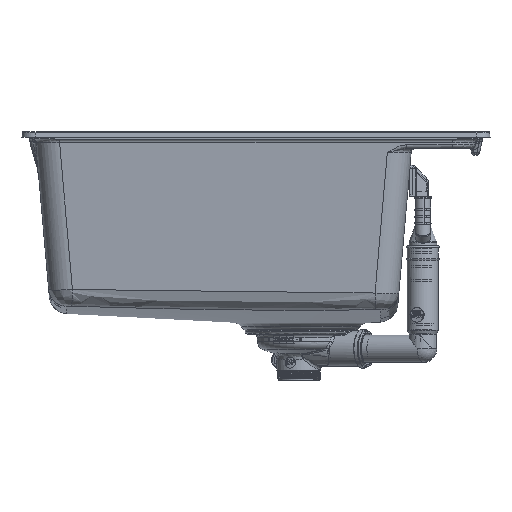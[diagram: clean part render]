
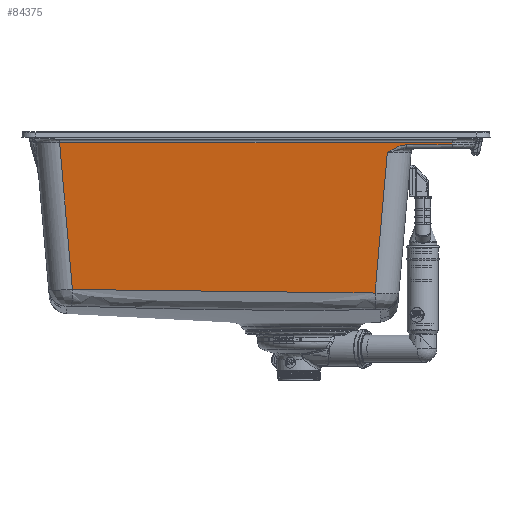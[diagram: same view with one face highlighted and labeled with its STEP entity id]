
A CAD part, front view. The second image highlights one B-rep face of the part: STEP entity #84375.
In plain terms, the highlighted planar face has unit normal (0, -0.996, -0.087).
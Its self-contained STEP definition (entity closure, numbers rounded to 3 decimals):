
#2318=B_SPLINE_CURVE_WITH_KNOTS('',3,(#120013,#120014,#120015,#120016,#120017,
#120018,#120019,#120020,#120021,#120022,#120023,#120024),.UNSPECIFIED.,
 .F.,.F.,(4,1,1,1,1,1,1,2,4),(0.,0.453,0.906,
1.358,1.585,1.811,2.038,2.264,
2.266),.UNSPECIFIED.);
#2320=B_SPLINE_CURVE_WITH_KNOTS('',3,(#120039,#120040,#120041,#120042,#120043),
 .UNSPECIFIED.,.F.,.F.,(4,1,4),(0.,14.136,32.985),
 .UNSPECIFIED.);
#5267=PLANE('',#89990);
#8041=FACE_OUTER_BOUND('',#12977,.T.);
#12977=EDGE_LOOP('',(#58316,#58317,#58318,#58319,#58320,#58321,#58322));
#18113=LINE('',#117624,#25758);
#18157=LINE('',#119020,#25802);
#18166=LINE('',#119169,#25811);
#18202=LINE('',#119951,#25847);
#18203=LINE('',#120044,#25848);
#25758=VECTOR('',#96568,10.);
#25802=VECTOR('',#96940,10.);
#25811=VECTOR('',#96983,10.);
#25847=VECTOR('',#97155,10.);
#25848=VECTOR('',#97158,10.);
#35954=VERTEX_POINT('',#117609);
#35957=VERTEX_POINT('',#117622);
#36069=VERTEX_POINT('',#119016);
#36077=VERTEX_POINT('',#119161);
#36136=VERTEX_POINT('',#119949);
#36137=VERTEX_POINT('',#120012);
#36138=VERTEX_POINT('',#120038);
#44469=EDGE_CURVE('',#35957,#35954,#18113,.T.);
#44668=EDGE_CURVE('',#36069,#35954,#18157,.T.);
#44688=EDGE_CURVE('',#35957,#36077,#18166,.T.);
#44782=EDGE_CURVE('',#36069,#36136,#18202,.T.);
#44783=EDGE_CURVE('',#36136,#36137,#2318,.T.);
#44785=EDGE_CURVE('',#36138,#36077,#2320,.T.);
#44786=EDGE_CURVE('',#36138,#36137,#18203,.T.);
#58316=ORIENTED_EDGE('',*,*,#44783,.F.);
#58317=ORIENTED_EDGE('',*,*,#44782,.F.);
#58318=ORIENTED_EDGE('',*,*,#44668,.T.);
#58319=ORIENTED_EDGE('',*,*,#44469,.F.);
#58320=ORIENTED_EDGE('',*,*,#44688,.T.);
#58321=ORIENTED_EDGE('',*,*,#44785,.F.);
#58322=ORIENTED_EDGE('',*,*,#44786,.T.);
#84375=ADVANCED_FACE('',(#8041),#5267,.T.);
#89990=AXIS2_PLACEMENT_3D('',#120037,#97156,#97157);
#96568=DIRECTION('',(1.,0.,0.));
#96940=DIRECTION('',(0.087,-0.087,0.992));
#96983=DIRECTION('',(0.087,0.087,-0.992));
#97155=DIRECTION('',(-1.,0.001,-0.009));
#97156=DIRECTION('center_axis',(0.,-0.996,
-0.087));
#97157=DIRECTION('ref_axis',(-1.,0.,0.));
#97158=DIRECTION('',(0.087,-0.087,0.992));
#117609=CARTESIAN_POINT('',(214.063,-364.964,-12.108));
#117622=CARTESIAN_POINT('',(-214.063,-364.964,-12.108));
#117624=CARTESIAN_POINT('',(82.5,-364.964,-12.108));
#119016=CARTESIAN_POINT('',(213.89,-364.791,-14.077));
#119020=CARTESIAN_POINT('',(213.605,-364.507,-17.333));
#119161=CARTESIAN_POINT('',(-200.065,-350.967,-172.095));
#119169=CARTESIAN_POINT('',(-213.719,-364.62,-16.04));
#119949=CARTESIAN_POINT('',(163.896,-364.753,-14.513));
#119951=CARTESIAN_POINT('',(199.944,-364.781,-14.198));
#120012=CARTESIAN_POINT('',(143.117,-364.019,-22.91));
#120013=CARTESIAN_POINT('Ctrl Pts',(163.896,-364.753,
-14.513));
#120014=CARTESIAN_POINT('Ctrl Pts',(162.386,-364.752,-14.526));
#120015=CARTESIAN_POINT('Ctrl Pts',(159.354,-364.718,-14.911));
#120016=CARTESIAN_POINT('Ctrl Pts',(155.005,-364.599,
-16.276));
#120017=CARTESIAN_POINT('Ctrl Pts',(151.586,-364.461,
-17.855));
#120018=CARTESIAN_POINT('Ctrl Pts',(148.924,-364.334,
-19.304));
#120019=CARTESIAN_POINT('Ctrl Pts',(146.965,-364.233,
-20.459));
#120020=CARTESIAN_POINT('Ctrl Pts',(145.036,-364.128,
-21.664));
#120021=CARTESIAN_POINT('Ctrl Pts',(143.767,-364.056,
-22.486));
#120022=CARTESIAN_POINT('Ctrl Pts',(143.13,-364.019,
-22.902));
#120023=CARTESIAN_POINT('Ctrl Pts',(143.124,-364.019,
-22.906));
#120024=CARTESIAN_POINT('Ctrl Pts',(143.117,-364.019,
-22.91));
#120037=CARTESIAN_POINT('Origin',(165.,-365.977,-0.523));
#120038=CARTESIAN_POINT('',(129.728,-350.629,-175.948));
#120039=CARTESIAN_POINT('Ctrl Pts',(129.728,-350.629,-175.948));
#120040=CARTESIAN_POINT('Ctrl Pts',(82.611,-350.578,
-176.539));
#120041=CARTESIAN_POINT('Ctrl Pts',(-27.345,-350.561,
-176.726));
#120042=CARTESIAN_POINT('Ctrl Pts',(-137.269,-350.793,
-174.079));
#120043=CARTESIAN_POINT('Ctrl Pts',(-200.065,-350.967,
-172.095));
#120044=CARTESIAN_POINT('',(142.512,-363.413,-29.827));
